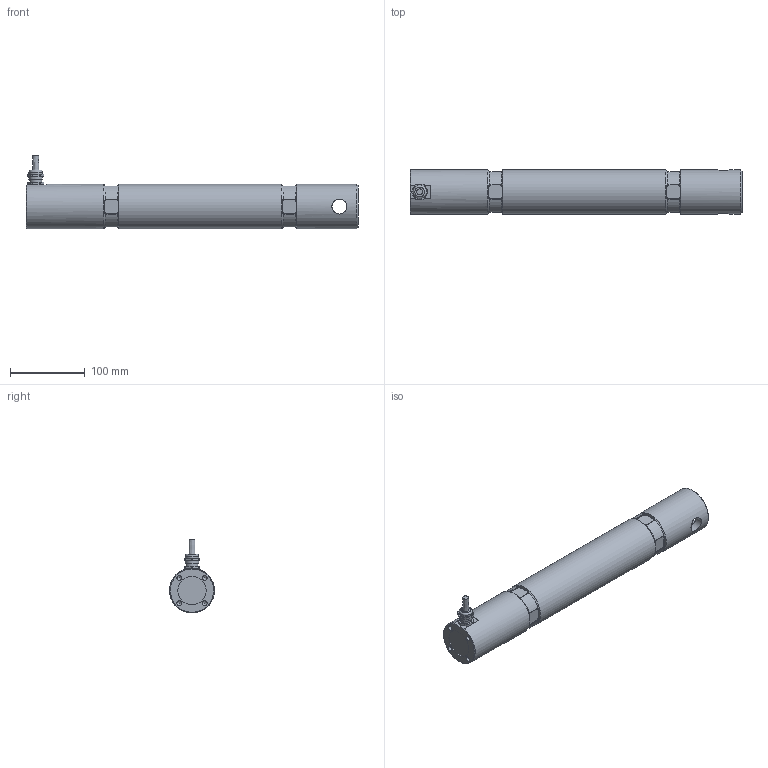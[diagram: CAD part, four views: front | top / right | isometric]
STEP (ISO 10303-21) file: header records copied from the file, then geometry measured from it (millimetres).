
FILE_DESCRIPTION(/* description */ ('Alibre Inc.'),/* implementation_level */ '2;1');
FILE_NAME(/* name */ 'export0',/* time_stamp */ '2012-10-25T14:11:27+02:00',/* author */ (''),/* organization */ (''),/* preprocessor_version */ 'ST-DEVELOPER v10',/* originating_system */ 'Alibre',/* authorisation */ '');
FILE_SCHEMA (('CONFIG_CONTROL_DESIGN'));
Length unit declared in the file: centimetre
Products named in the file (6): ID_1; ID_2; ID_3
Bounding box: 445 x 60 x 99.07 mm (x, y, z)
Volume: 1184441.3 mm3; surface area: 102383 mm2
Topology: 4 solids, 4 shells, 237 faces, 601 edges, 387 vertices
Faces by surface type: plane 109, cylinder 102, torus 18, cone 7, bspline 1
Full cylindrical faces by diameter (mm): 6.647 x4, 8 x1, 10 x1, 14.376 x1, 16 x2, 18 x2, 20 x2, 38 x2, 60 x3
Entity records: 10771 total; most frequent: CARTESIAN_POINT 5003, ORIENTED_EDGE 1132, DIRECTION 907, EDGE_CURVE 566, VERTEX_POINT 383, AXIS2_PLACEMENT_3D 362, VECTOR 292, LINE 292
